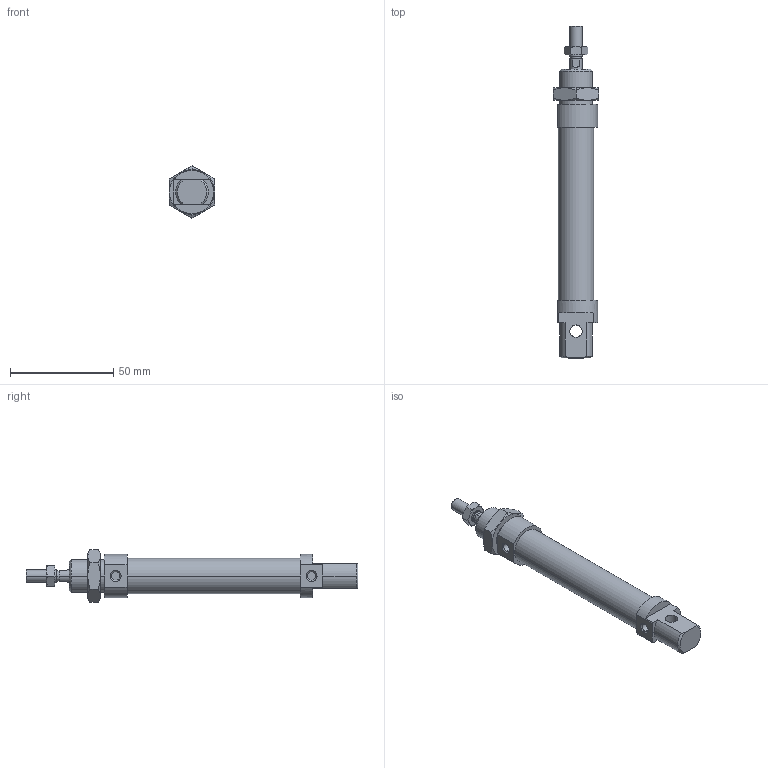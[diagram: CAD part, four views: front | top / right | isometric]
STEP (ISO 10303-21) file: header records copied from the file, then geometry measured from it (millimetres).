
FILE_DESCRIPTION((''),'2;1');
FILE_NAME('I:\DOC-EDP\Lib-3d\1200\CILINDRI\1280\1280_16_0050.stp','2003-04-07T14:59:20',('maffial1'),(''),'Autodesk Inventor (R) 6.0','Autodesk Inventor (R) 6.0','');
FILE_SCHEMA(('AUTOMOTIVE_DESIGN { 1 0 10303 214 1 1 1 1 }'));
Length unit declared in the file: millimetre
Products named in the file (5): 1280_16_0050; S1280_16_50; 1200_16_05; 1200_16_06; C1280_16_50
Assembly tree (4 placements, depth 2):
  1280_16_0050
    S1280_16_50
    1200_16_05
    1200_16_06
    C1280_16_50
Bounding box: 22 x 161 x 25.4 mm (x, y, z)
Volume: 34478.5 mm3; surface area: 13633.5 mm2
Topology: 4 solids, 4 shells, 121 faces, 268 edges, 162 vertices
Faces by surface type: cone 40, plane 39, cylinder 22, bspline 20
Entity records: 3653 total; most frequent: CARTESIAN_POINT 976, DIRECTION 556, ORIENTED_EDGE 536, EDGE_CURVE 268, AXIS2_PLACEMENT_3D 230, VERTEX_POINT 162, EDGE_LOOP 134, FACE_OUTER_BOUND 121
